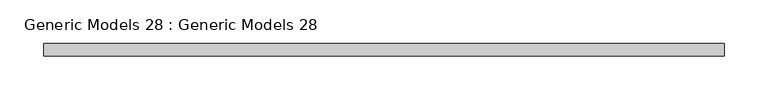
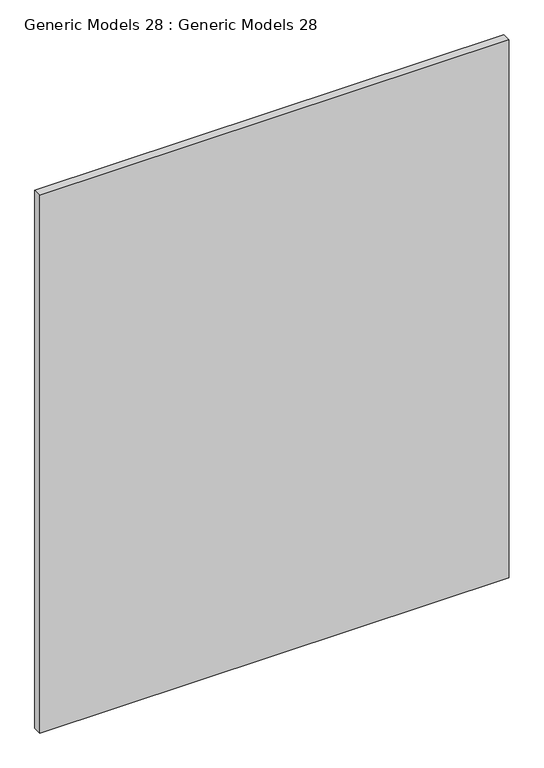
"""IFC4 building model written with IfcOpenShell, lengths in millimetres: proxy geometry, Generic Models 28 : Generic Models 28."""

from ifc_helpers import new_model, si_unit, frame, origin, place, context, project, spatial, polyline, outline, extrude, source, transform, mapped, element, save


def generic_models_28_generic_models_28_69bf8d54(model_context):
    return source(origin(), model_context, "Body", "SweptSolid", [
        extrude(outline(polyline([(-8588.9084832, -1849.3897122), (-9366.3710399, -1849.3897122), (-9366.3710399, -1835.2290985), (-8588.9084832, -1835.2290985), (-8588.9084832, -1849.3897122)])), frame((0.0, 0.0, 740.9262315), z_axis=(0.0, 0.0, 1.0), x_axis=(1.0, 0.0, 0.0)), (0.0, 0.0, 1.0), 941.6349809),
    ])


if __name__ == "__main__":
    model = new_model("IFC4")
    model_context = context("Model", 3, world=origin())
    ifc_project = project(units=[si_unit("LENGTHUNIT", "METRE", prefix="MILLI")], contexts=[model_context])
    site = spatial("IfcSite", under=ifc_project)
    building = spatial("IfcBuilding", under=site)
    placement = place(None, origin())
    generic_models_28_generic_models_28_shape = generic_models_28_generic_models_28_69bf8d54(model_context)
    element("IfcBuildingElementProxy", 1, Name="Generic Models 28 : Generic Models 28", ObjectType="Generic Models 28 : Generic Models 28", at=placement, inside=building, context=model_context, shape_type="MappedRepresentation", body=[
        mapped(generic_models_28_generic_models_28_shape, transform((0.0, 0.0, 0.0), x_axis=(1.0, 0.0, 0.0), y_axis=(0.0, 1.0, 0.0), z_axis=(0.0, 0.0, 1.0))),
    ])
    save(model, "model.ifc")
